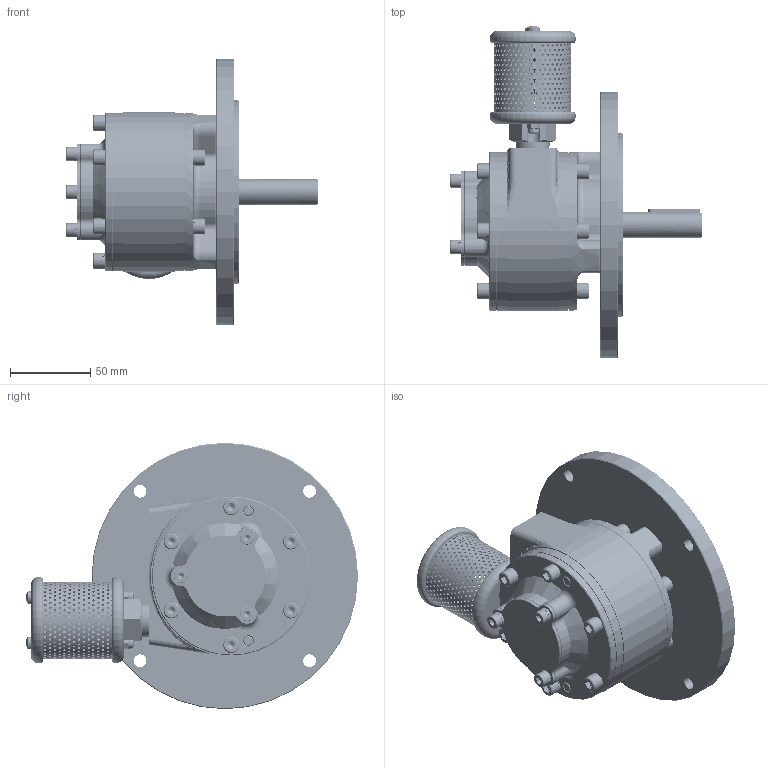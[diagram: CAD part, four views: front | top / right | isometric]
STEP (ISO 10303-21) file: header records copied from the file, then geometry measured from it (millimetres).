
FILE_DESCRIPTION (( 'STEP AP214' ), '1' );
FILE_NAME ('4VMN-SS (Nema).STEP', '2026-04-24T04:55:56', ( '' ), ( '' ), 'SwSTEP 2.0', 'SolidWorks 2017', '' );
FILE_SCHEMA (( 'AUTOMOTIVE_DESIGN' ));
Length unit declared in the file: millimetre
Products named in the file (2): 4VMN-SS (Nema)
Bounding box: 156.65 x 206.92 x 166 mm (x, y, z)
Volume: 526499.6 mm3; surface area: 209099.4 mm2
Topology: 65 solids, 65 shells, 4505 faces, 11836 edges, 7387 vertices
Faces by surface type: cylinder 2398, cone 1156, plane 745, torus 166, sphere 22, bspline 18
Entity records: 232113 total; most frequent: CARTESIAN_POINT 73185, ORIENTED_EDGE 23412, DIRECTION 20647, EDGE_CURVE 11706, AXIS2_PLACEMENT_3D 8054, VERTEX_POINT 7387, EDGE_LOOP 6175, UNCERTAINTY_MEASURE_WITH_UNIT 4553
